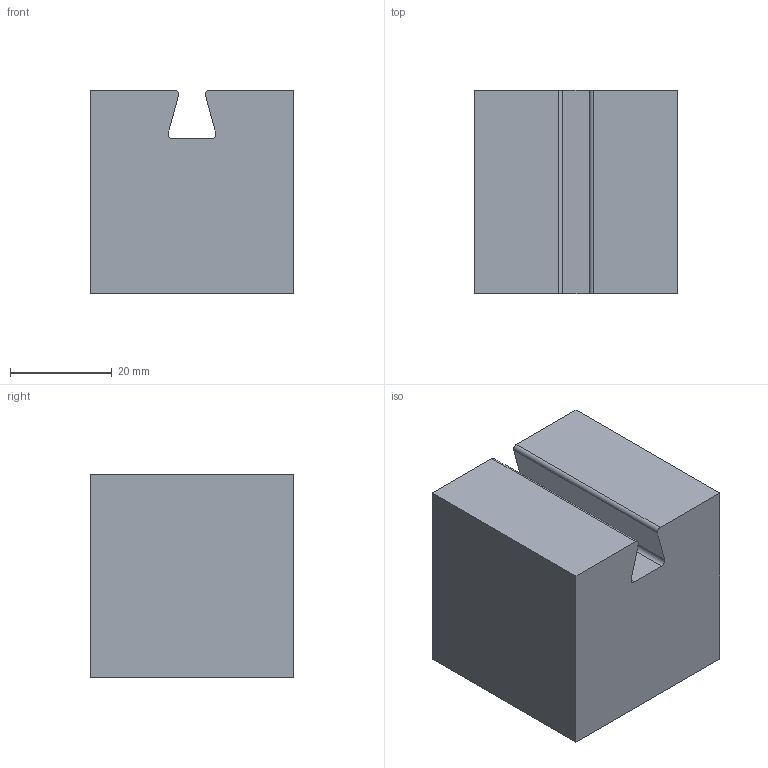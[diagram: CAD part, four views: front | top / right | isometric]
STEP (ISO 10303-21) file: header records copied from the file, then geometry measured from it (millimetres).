
FILE_DESCRIPTION (( 'STEP AP203' ), '1' );
FILE_NAME ('ALA20 Male Dovetail Subtraction.STEP', '2021-01-13T20:04:41', ( '' ), ( '' ), 'SwSTEP 2.0', 'SolidWorks 2020', '' );
FILE_SCHEMA (( 'CONFIG_CONTROL_DESIGN' ));
Length unit declared in the file: inch
Products named in the file (1): ALA20 Male Dovetail Subtraction
Bounding box: 40 x 40 x 40.01 mm (x, y, z)
Volume: 61220.1 mm3; surface area: 10379.9 mm2
Topology: 1 solids, 1 shells, 151 faces, 390 edges, 260 vertices
Faces by surface type: plane 117, bspline 30, cylinder 4
Entity records: 6731 total; most frequent: CARTESIAN_POINT 3152, ORIENTED_EDGE 780, DIRECTION 582, EDGE_CURVE 390, VECTOR 322, LINE 322, VERTEX_POINT 260, EDGE_LOOP 170
